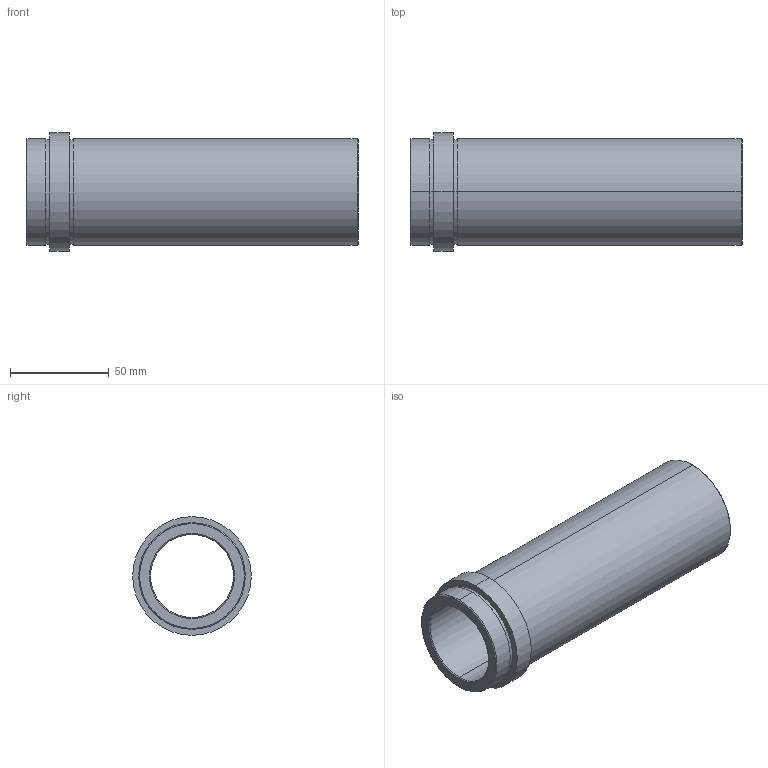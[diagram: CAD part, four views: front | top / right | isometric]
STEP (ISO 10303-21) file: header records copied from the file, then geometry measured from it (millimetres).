
FILE_DESCRIPTION( ( 'STEP AP203' ), '1' );
FILE_NAME( 'D:/Delta 3 D/D21/D21 - 42x156.step', '2002-12-31T23:01:28', ( ' ' ), ( ' ' ), 'XStep 1.0', ' ', ' ' );
FILE_SCHEMA( ( 'CONFIG_CONTROL_DESIGN' ) );
Length unit declared in the file: metre
Products named in the file (1): 1
Bounding box: 168 x 60 x 60 mm (x, y, z)
Volume: 156963.4 mm3; surface area: 53887 mm2
Topology: 1 solids, 1 shells, 26 faces, 52 edges, 32 vertices
Faces by surface type: revolution 20, bspline 6
Entity records: 773 total; most frequent: CARTESIAN_POINT 169, DIRECTION 106, ORIENTED_EDGE 104, EDGE_CURVE 52, AXIS2_PLACEMENT_3D 33, EDGE_LOOP 32, VERTEX_POINT 32, CIRCLE 32
